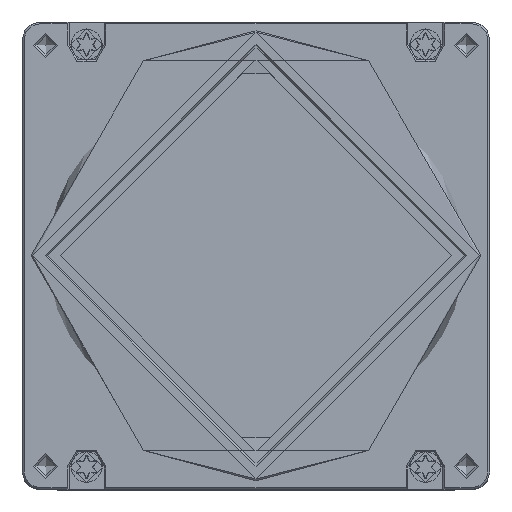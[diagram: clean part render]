
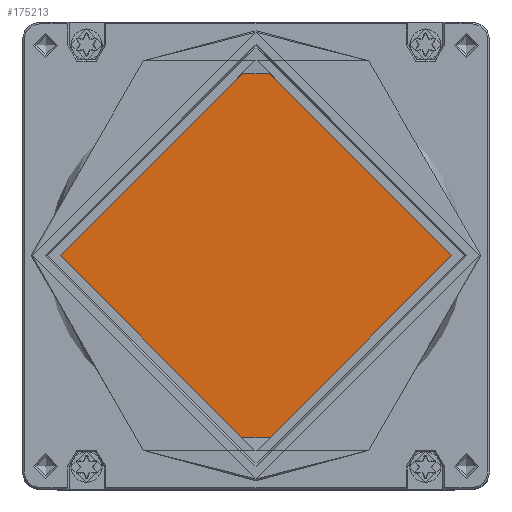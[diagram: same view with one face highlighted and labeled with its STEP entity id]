
A CAD part, top view. The second image highlights one B-rep face of the part: STEP entity #175213.
In plain terms, the highlighted planar face has unit normal (0, 0, 1).
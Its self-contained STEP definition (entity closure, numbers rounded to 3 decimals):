
#140002 = ORIENTED_EDGE ( 'NONE', *, *, #248499, .T. ) ;
#140197 = DIRECTION ( 'NONE',  ( 0., 0., 1. ) ) ;
#175213 = ADVANCED_FACE ( 'NONE', ( #603621 ), #303511, .T. ) ;
#190847 = DIRECTION ( 'NONE',  ( 1., 0., 0. ) ) ;
#248499 = EDGE_CURVE ( 'NONE', #639553, #639553, #462036, .T. ) ;
#303511 = PLANE ( 'NONE',  #455565 ) ;
#304181 = CARTESIAN_POINT ( 'NONE',  ( 0., 0., 1. ) ) ;
#377088 = EDGE_LOOP ( 'NONE', ( #140002 ) ) ;
#387256 = CARTESIAN_POINT ( 'NONE',  ( 35.3, 0., 1. ) ) ;
#450903 = DIRECTION ( 'NONE',  ( 1., 0., 0. ) ) ;
#455565 = AXIS2_PLACEMENT_3D ( 'NONE', #654775, #456953, #190847 ) ;
#456953 = DIRECTION ( 'NONE',  ( 0., 0., 1. ) ) ;
#462036 = CIRCLE ( 'NONE', #527327, 35.3 ) ;
#527327 = AXIS2_PLACEMENT_3D ( 'NONE', #304181, #140197, #450903 ) ;
#603621 = FACE_OUTER_BOUND ( 'NONE', #377088, .T. ) ;
#639553 = VERTEX_POINT ( 'NONE', #387256 ) ;
#654775 = CARTESIAN_POINT ( 'NONE',  ( 0., 0., 1. ) ) ;
